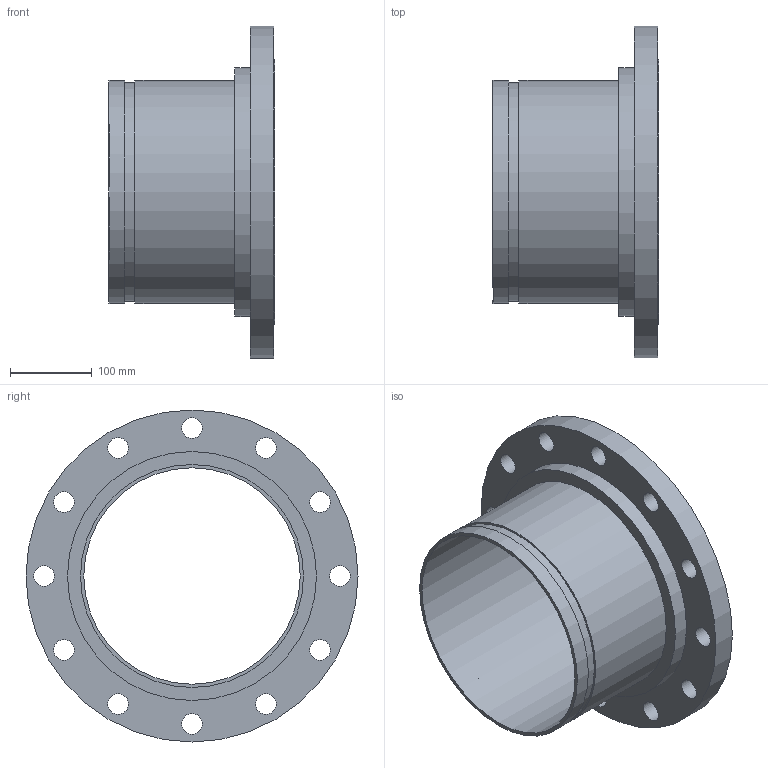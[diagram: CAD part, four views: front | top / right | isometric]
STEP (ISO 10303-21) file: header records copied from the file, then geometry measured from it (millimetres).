
FILE_DESCRIPTION(/* description */ ('VIC No 445R FLANGE ADAPTER NIPPE (ANSI)','CAx-IF Rec.Pracs.---Representation and Presentation of Product Manufacturing Information (PMI)---4.0---2014-10-13'),/* implementation_level */ '2;1');
FILE_NAME(/* name */ 'C:\Users\kkamble\AppData\Roaming\Autodesk\ApplicationPlugins\Back Up\Victaulic_SS-OGS_Flanged Adapter Nipple_CL 150 RF_Style 445R (OGSxFLG)\Victaulic_SS-OGS_Flanged Adapter Nipple_CL 150 RF_Style 445R (OGSxFLG)_10 (250).stp',/* time_stamp */ '2020-08-27T09:31:21+05:00',/* author */ ('jbrannon'),/* organization */ ('Victaulic'),/* preprocessor_version */ 'ST-DEVELOPER v17.2',/* originating_system */ 'Autodesk Inventor 2019',/* authorisation */ '');
FILE_SCHEMA (('AP242_MANAGED_MODEL_BASED_3D_ENGINEERING_MIM_LF { 1 0 10303 442 1 1 4 }'));
Length unit declared in the file: inch
Products named in the file (1): 445R-10.0
Bounding box: 203.2 x 406.4 x 406.4 mm (x, y, z)
Volume: 2839428.5 mm3; surface area: 525662.1 mm2
Topology: 1 solids, 1 shells, 26 faces, 71 edges, 52 vertices
Faces by surface type: cylinder 19, plane 7
Full cylindrical faces by diameter (mm): 25.4 x12, 264.922 x1, 268.275 x1, 273.05 x2, 304.8 x1, 323.85 x1, 406.4 x1
Entity records: 1089 total; most frequent: DIRECTION 203, CARTESIAN_POINT 167, ORIENTED_EDGE 142, AXIS2_PLACEMENT_3D 92, EDGE_CURVE 71, EDGE_LOOP 57, CIRCLE 52, VERTEX_POINT 52
